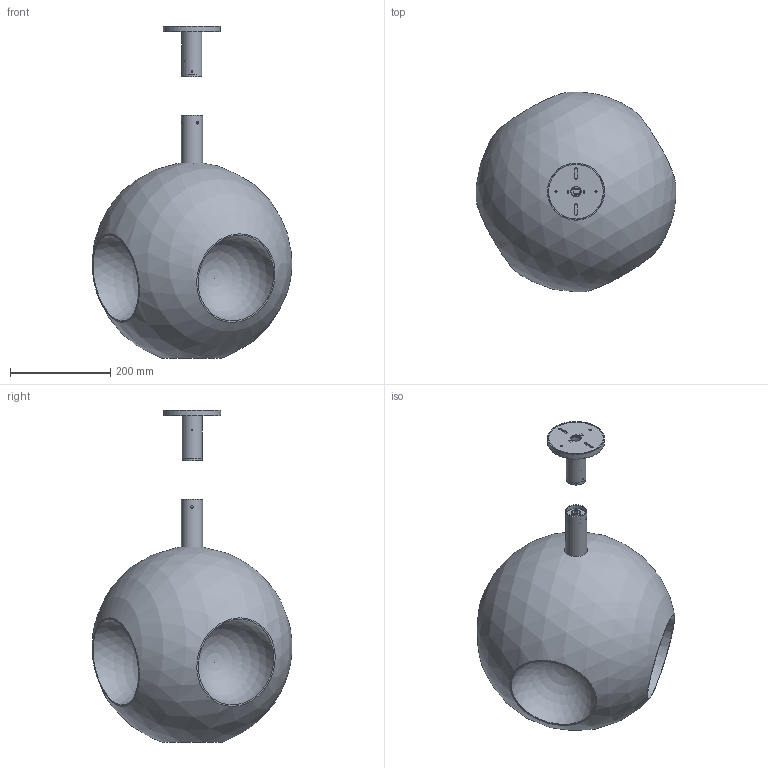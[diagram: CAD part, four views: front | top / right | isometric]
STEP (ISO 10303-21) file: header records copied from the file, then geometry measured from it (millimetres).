
FILE_DESCRIPTION(/* description */ ('','CAx-IF Rec.Pracs.---Representation and Presentation of Product Manufacturing Information (PMI)---4.0---2014-10-13'),/* implementation_level */ '2;1');
FILE_NAME(/* name */ 'D:\Users\pavel.daniel\Desktop\modely\CL092PA-1.stp',/* time_stamp */ '2020-04-08T12:49:17+02:00',/* author */ ('pavel.daniel'),/* organization */ (''),/* preprocessor_version */ 'ST-DEVELOPER v17',/* originating_system */ 'Autodesk Inventor 2018',/* authorisation */ '');
FILE_SCHEMA (('AP242_MANAGED_MODEL_BASED_3D_ENGINEERING_MIM_LF { 1 0 10303 442 1 1 4 }'));
Length unit declared in the file: millimetre
Products named in the file (1): CL092PA-1CE_Náhrada_1
Bounding box: 399.4 x 399.37 x 663.94 mm (x, y, z)
Volume: 2015619.1 mm3; surface area: 1335472.6 mm2
Topology: 15 solids, 15 shells, 400 faces, 999 edges, 634 vertices
Faces by surface type: plane 215, cylinder 118, sphere 35, cone 28, bspline 3, torus 1
Full cylindrical faces by diameter (mm): 2 x1, 3 x2, 3.242 x1, 3.5 x1, 3.8 x1, 4 x2, 4.1 x1, 4.3 x1, 4.5 x2, 5 x3, 7 x2, 8 x2, 10 x2, 13 x1, 20 x1, 27 x1, 37 x2, 38.8 x1, 39.2 x1, 40 x1, 42.4 x1, 42.5 x1, 46 x1, 55 x1, 109.3 x1, 110.3 x1, 114.3 x1, 120 x1, 180 x4
Entity records: 13083 total; most frequent: CARTESIAN_POINT 2865, DIRECTION 2034, ORIENTED_EDGE 1972, EDGE_CURVE 986, AXIS2_PLACEMENT_3D 701, LINE 634, VECTOR 634, VERTEX_POINT 634
